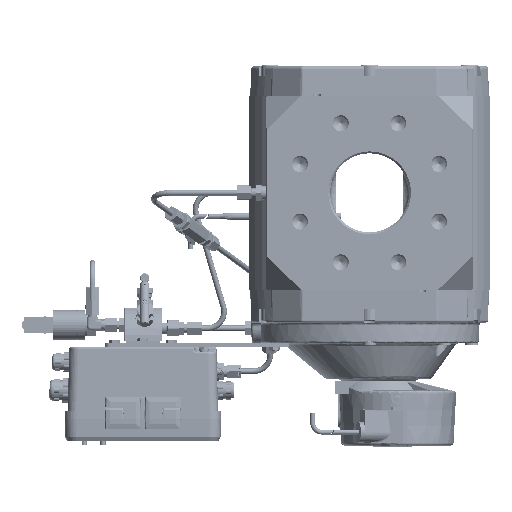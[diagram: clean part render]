
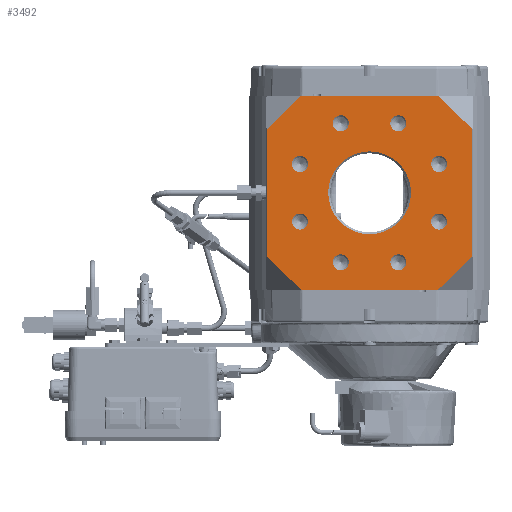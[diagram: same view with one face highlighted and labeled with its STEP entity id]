
A CAD part, front view. The second image highlights one B-rep face of the part: STEP entity #3492.
In plain terms, the highlighted planar face has unit normal (0, -1, 0).
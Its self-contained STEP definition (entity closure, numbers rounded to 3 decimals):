
#3492=ADVANCED_FACE('',(#91419,#91421,#91423,#91425,#91427,#91429,#91431,#91433,
#91435,#91437),#91439,.T.);
#91419=FACE_BOUND('',#91420,.T.);
#91420=EDGE_LOOP('',(#216889,#216890,#216891,#216892,#216893,#216894,#216895,#216896));
#91421=FACE_BOUND('',#91422,.T.);
#91422=EDGE_LOOP('',(#216897));
#91423=FACE_BOUND('',#91424,.T.);
#91424=EDGE_LOOP('',(#216898));
#91425=FACE_BOUND('',#91426,.T.);
#91426=EDGE_LOOP('',(#216899));
#91427=FACE_BOUND('',#91428,.T.);
#91428=EDGE_LOOP('',(#216900));
#91429=FACE_BOUND('',#91430,.T.);
#91430=EDGE_LOOP('',(#216901));
#91431=FACE_BOUND('',#91432,.T.);
#91432=EDGE_LOOP('',(#216902));
#91433=FACE_BOUND('',#91434,.T.);
#91434=EDGE_LOOP('',(#216903));
#91435=FACE_BOUND('',#91436,.T.);
#91436=EDGE_LOOP('',(#216904));
#91437=FACE_BOUND('',#91438,.T.);
#91438=EDGE_LOOP('',(#216905));
#91439=PLANE('',#91440);
#91440=AXIS2_PLACEMENT_3D('',#91441,#91442,#91443);
#91441=CARTESIAN_POINT('',(-160.843,-120.5,-211.));
#91442=DIRECTION('',(0.,-1.,0.));
#91443=DIRECTION('',(1.,0.,0.));
#216889=ORIENTED_EDGE('',*,*,#273051,.T.);
#216890=ORIENTED_EDGE('',*,*,#273052,.F.);
#216891=ORIENTED_EDGE('',*,*,#272867,.T.);
#216892=ORIENTED_EDGE('',*,*,#272618,.F.);
#216893=ORIENTED_EDGE('',*,*,#273031,.T.);
#216894=ORIENTED_EDGE('',*,*,#273053,.F.);
#216895=ORIENTED_EDGE('',*,*,#273054,.T.);
#216896=ORIENTED_EDGE('',*,*,#272671,.T.);
#216897=ORIENTED_EDGE('',*,*,#273055,.T.);
#216898=ORIENTED_EDGE('',*,*,#273056,.T.);
#216899=ORIENTED_EDGE('',*,*,#273057,.T.);
#216900=ORIENTED_EDGE('',*,*,#273058,.T.);
#216901=ORIENTED_EDGE('',*,*,#273059,.T.);
#216902=ORIENTED_EDGE('',*,*,#273060,.T.);
#216903=ORIENTED_EDGE('',*,*,#273061,.T.);
#216904=ORIENTED_EDGE('',*,*,#273062,.T.);
#216905=ORIENTED_EDGE('',*,*,#273063,.T.);
#272618=EDGE_CURVE('',#296667,#296399,#296669,.T.);
#272671=EDGE_CURVE('',#296772,#296770,#296773,.F.);
#272867=EDGE_CURVE('',#297134,#296399,#297135,.T.);
#273031=EDGE_CURVE('',#296667,#297327,#297328,.T.);
#273051=EDGE_CURVE('',#296770,#297366,#297367,.F.);
#273052=EDGE_CURVE('',#297134,#297366,#297368,.F.);
#273053=EDGE_CURVE('',#297369,#297327,#297370,.T.);
#273054=EDGE_CURVE('',#297369,#296772,#297371,.F.);
#273055=EDGE_CURVE('',#297372,#297372,#297373,.F.);
#273056=EDGE_CURVE('',#297374,#297374,#297375,.F.);
#273057=EDGE_CURVE('',#297376,#297376,#297377,.F.);
#273058=EDGE_CURVE('',#297378,#297378,#297379,.F.);
#273059=EDGE_CURVE('',#297380,#297380,#297381,.F.);
#273060=EDGE_CURVE('',#297382,#297382,#297383,.T.);
#273061=EDGE_CURVE('',#297384,#297384,#297385,.F.);
#273062=EDGE_CURVE('',#297386,#297386,#297387,.F.);
#273063=EDGE_CURVE('',#297388,#297388,#297389,.F.);
#296399=VERTEX_POINT('',#336839);
#296667=VERTEX_POINT('',#337503);
#296669=LINE('',#337507,#337508);
#296770=VERTEX_POINT('',#337806);
#296772=VERTEX_POINT('',#337810);
#296773=LINE('',#337811,#337812);
#297134=VERTEX_POINT('',#339481);
#297135=LINE('',#339482,#339483);
#297327=VERTEX_POINT('',#340477);
#297328=LINE('',#340478,#340479);
#297366=VERTEX_POINT('',#340575);
#297367=LINE('',#340576,#340577);
#297368=LINE('',#340579,#340580);
#297369=VERTEX_POINT('',#340582);
#297370=LINE('',#340583,#340584);
#297371=LINE('',#340586,#340587);
#297372=VERTEX_POINT('',#340589);
#297373=CIRCLE('',#340590,8.5);
#297374=VERTEX_POINT('',#340594);
#297375=CIRCLE('',#340595,8.5);
#297376=VERTEX_POINT('',#340599);
#297377=CIRCLE('',#340600,8.5);
#297378=VERTEX_POINT('',#340604);
#297379=CIRCLE('',#340605,8.5);
#297380=VERTEX_POINT('',#340609);
#297381=CIRCLE('',#340610,8.5);
#297382=VERTEX_POINT('',#340614);
#297383=CIRCLE('',#340615,44.);
#297384=VERTEX_POINT('',#340619);
#297385=CIRCLE('',#340620,8.5);
#297386=VERTEX_POINT('',#340624);
#297387=CIRCLE('',#340625,8.5);
#297388=VERTEX_POINT('',#340629);
#297389=CIRCLE('',#340630,8.5);
#336839=CARTESIAN_POINT('',(73.003,-120.5,0.));
#337503=CARTESIAN_POINT('',(-73.,-120.5,0.));
#337507=CARTESIAN_POINT('',(-73.,-120.5,0.));
#337508=VECTOR('',#337509,1.);
#337509=DIRECTION('',(1.,0.,0.));
#337806=CARTESIAN_POINT('',(73.003,-120.5,-206.));
#337810=CARTESIAN_POINT('',(-73.,-120.5,-206.));
#337811=CARTESIAN_POINT('',(73.003,-120.5,-206.));
#337812=VECTOR('',#337813,1.);
#337813=DIRECTION('',(-1.,0.,0.));
#339481=CARTESIAN_POINT('',(108.957,-120.5,-35.082));
#339482=CARTESIAN_POINT('',(108.957,-120.5,-35.082));
#339483=VECTOR('',#339484,1.);
#339484=DIRECTION('',(-0.716,0.,0.698));
#340477=CARTESIAN_POINT('',(-108.957,-120.5,-35.086));
#340478=CARTESIAN_POINT('',(-73.,-120.5,0.));
#340479=VECTOR('',#340480,1.);
#340480=DIRECTION('',(-0.716,0.,-0.698));
#340575=CARTESIAN_POINT('',(108.957,-120.5,-170.918));
#340576=CARTESIAN_POINT('',(108.957,-120.5,-170.918));
#340577=VECTOR('',#340578,1.);
#340578=DIRECTION('',(-0.716,0.,-0.698));
#340579=CARTESIAN_POINT('',(108.957,-120.5,-170.918));
#340580=VECTOR('',#340581,1.);
#340581=DIRECTION('',(0.,0.,1.));
#340582=CARTESIAN_POINT('',(-108.957,-120.5,-170.914));
#340583=CARTESIAN_POINT('',(-108.957,-120.5,-170.914));
#340584=VECTOR('',#340585,1.);
#340585=DIRECTION('',(0.,0.,1.));
#340586=CARTESIAN_POINT('',(-73.,-120.5,-206.));
#340587=VECTOR('',#340588,1.);
#340588=DIRECTION('',(-0.716,0.,0.698));
#340589=CARTESIAN_POINT('',(-24.607,-120.5,-23.097));
#340590=AXIS2_PLACEMENT_3D('',#340591,#340592,#340593);
#340591=CARTESIAN_POINT('',(-30.618,-120.5,-29.107));
#340592=DIRECTION('',(0.,-1.,0.));
#340593=DIRECTION('',(0.707,0.,0.707));
#340594=CARTESIAN_POINT('',(-79.903,-120.5,-127.607));
#340595=AXIS2_PLACEMENT_3D('',#340596,#340597,#340598);
#340596=CARTESIAN_POINT('',(-73.893,-120.5,-133.618));
#340597=DIRECTION('',(0.,-1.,0.));
#340598=DIRECTION('',(-0.707,0.,0.707));
#340599=CARTESIAN_POINT('',(24.607,-120.5,-182.903));
#340600=AXIS2_PLACEMENT_3D('',#340601,#340602,#340603);
#340601=CARTESIAN_POINT('',(30.618,-120.5,-176.893));
#340602=DIRECTION('',(0.,-1.,0.));
#340603=DIRECTION('',(-0.707,0.,-0.707));
#340604=CARTESIAN_POINT('',(79.903,-120.5,-78.393));
#340605=AXIS2_PLACEMENT_3D('',#340606,#340607,#340608);
#340606=CARTESIAN_POINT('',(73.893,-120.5,-72.382));
#340607=DIRECTION('',(0.,-1.,0.));
#340608=DIRECTION('',(0.707,0.,-0.707));
#340609=CARTESIAN_POINT('',(39.1,-120.5,-29.1));
#340610=AXIS2_PLACEMENT_3D('',#340611,#340612,#340613);
#340611=CARTESIAN_POINT('',(30.6,-120.5,-29.1));
#340612=DIRECTION('',(0.,-1.,0.));
#340613=DIRECTION('',(1.,0.,0.));
#340614=CARTESIAN_POINT('',(-44.,-120.5,-103.));
#340615=AXIS2_PLACEMENT_3D('',#340616,#340617,#340618);
#340616=CARTESIAN_POINT('',(0.,-120.5,-103.));
#340617=DIRECTION('',(0.,1.,0.));
#340618=DIRECTION('',(-1.,0.,0.));
#340619=CARTESIAN_POINT('',(73.9,-120.5,-142.1));
#340620=AXIS2_PLACEMENT_3D('',#340621,#340622,#340623);
#340621=CARTESIAN_POINT('',(73.9,-120.5,-133.6));
#340622=DIRECTION('',(0.,-1.,0.));
#340623=DIRECTION('',(0.,0.,-1.));
#340624=CARTESIAN_POINT('',(-39.1,-120.5,-176.9));
#340625=AXIS2_PLACEMENT_3D('',#340626,#340627,#340628);
#340626=CARTESIAN_POINT('',(-30.6,-120.5,-176.9));
#340627=DIRECTION('',(0.,-1.,0.));
#340628=DIRECTION('',(-1.,0.,0.));
#340629=CARTESIAN_POINT('',(-73.9,-120.5,-63.9));
#340630=AXIS2_PLACEMENT_3D('',#340631,#340632,#340633);
#340631=CARTESIAN_POINT('',(-73.9,-120.5,-72.4));
#340632=DIRECTION('',(0.,-1.,0.));
#340633=DIRECTION('',(0.,0.,1.));
